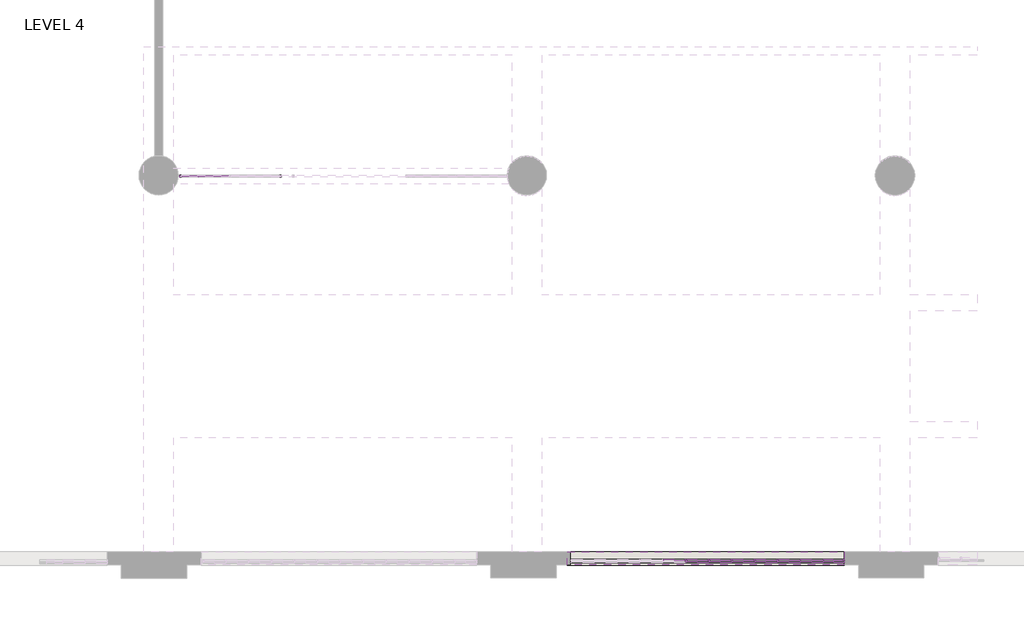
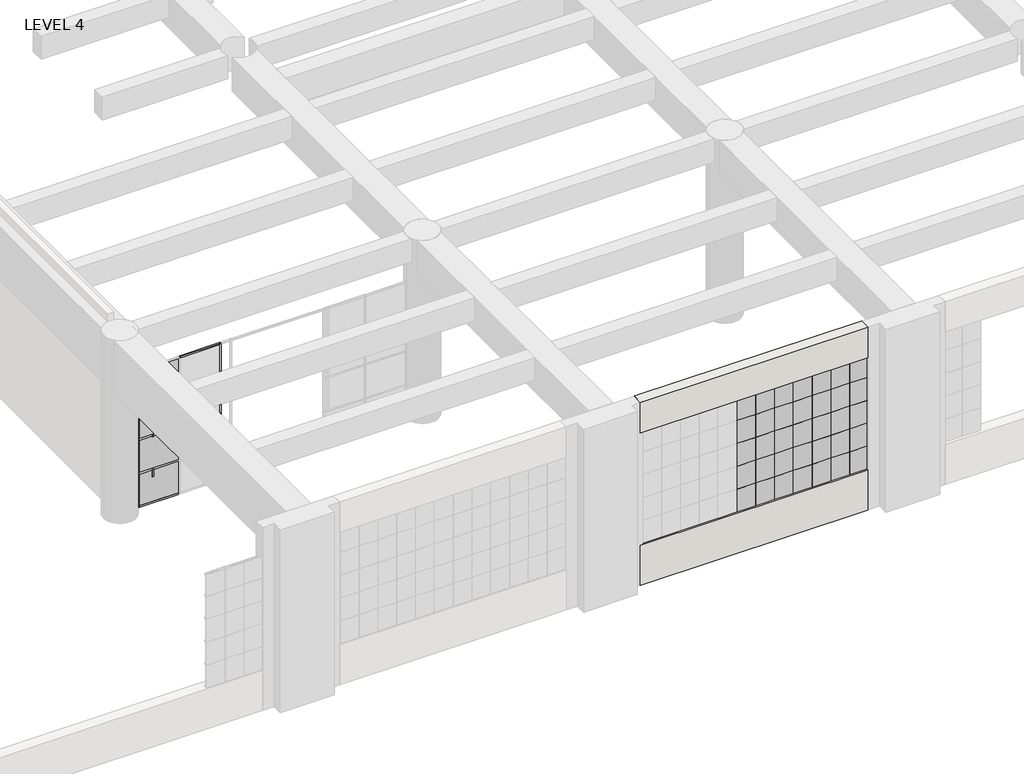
# One storey, part 4 of 26: 82 members, 39 plates, 2 walls.
"""IFC4 building model written with IfcOpenShell, lengths in millimetres."""

from ifc_helpers import new_model, si_unit, frame, origin, origin_with_axes, place, context, project, spatial, polyline, outline, extrude, transform, mapped, element, save
from components import member_038dcf1c, member_3d4b608b, member_3c10d71f, member_653bb31e, member_8f0442da, member_1fa6a766, member_6e7684cb, member_aef483ff, member_88f59781, member_92de3609, member_bade2307, member_f7ae4650, member_118f13bb, member_0a6cf826, member_2f6810a2, member_d9fec558, member_0e6c94ff, member_643a3807, member_6c57b699, member_ec43e15b, member_0f6da5c5, member_b565511f, member_2de5acac, member_f0929a5d, member_9f9ec4ec, system_panel_glazed_ab35d819, system_panel_glazed_669206e4, system_panel_glazed_418eb6cd, system_panel_glazed_3e00299e, plate_ccda104d, plate_41dfdbf4, plate_6a2117e0, plate_a1edb61d

model = new_model("IFC4")

# Units and contexts
model_context = context("Model", 3, world=origin())
ifc_project = project(units=[si_unit("LENGTHUNIT", "METRE", prefix="MILLI")], contexts=[model_context])

# Site, building, storey
site = spatial("IfcSite", under=ifc_project)
building = spatial("IfcBuilding", under=site)
storey = spatial("IfcBuildingStorey", under=building, Name="LEVEL 4", Elevation=0.0)

# Members
placement = place(None, origin())
member_shape = member_038dcf1c(model_context)
element("IfcMember", 1, ObjectType="Circular Mullion : 1 1/4\" Square", at=placement, inside=storey, context=model_context, shape_type="MappedRepresentation", body=[
    mapped(member_shape, transform((-32384.6919526, 87297.4286167, 2171.7), x_axis=(1.0, 0.0, 0.0), y_axis=(0.0, -1.0, 0.0), z_axis=(0.0, 0.0, -1.0))),
])
element("IfcMember", 2, ObjectType="Circular Mullion : 1 1/4\" Square", at=placement, inside=storey, context=model_context, shape_type="MappedRepresentation", body=[
    mapped(member_shape, transform((-32384.6919526, 87297.4286167, 1714.5), x_axis=(1.0, 0.0, 0.0), y_axis=(0.0, -1.0, 0.0), z_axis=(0.0, 0.0, -1.0))),
])
element("IfcMember", 3, ObjectType="Circular Mullion : 1 1/4\" Square", at=placement, inside=storey, context=model_context, shape_type="MappedRepresentation", body=[
    mapped(member_shape, transform((-32384.6919526, 87297.4286167, 1257.3), x_axis=(1.0, 0.0, 0.0), y_axis=(0.0, -1.0, 0.0), z_axis=(0.0, 0.0, -1.0))),
])
element("IfcMember", 4, ObjectType="Circular Mullion : 1 1/4\" Square", at=placement, inside=storey, context=model_context, shape_type="MappedRepresentation", body=[
    mapped(member_shape, transform((-32384.6919526, 87297.4286167, 800.1), x_axis=(1.0, 0.0, 0.0), y_axis=(0.0, -1.0, 0.0), z_axis=(0.0, 0.0, -1.0))),
])
member_2_shape = member_3d4b608b(model_context)
element("IfcMember", 5, ObjectType="Circular Mullion : 1 1/4\" Square", at=placement, inside=storey, context=model_context, shape_type="MappedRepresentation", body=[
    mapped(member_2_shape, transform((-33425.620947, 87297.4286167, 2171.7), x_axis=(1.0, 0.0, 0.0), y_axis=(0.0, -1.0, 0.0), z_axis=(0.0, 0.0, -1.0))),
])
element("IfcMember", 6, ObjectType="Circular Mullion : 1 1/4\" Square", at=placement, inside=storey, context=model_context, shape_type="MappedRepresentation", body=[
    mapped(member_2_shape, transform((-33425.620947, 87297.4286167, 1714.5), x_axis=(1.0, 0.0, 0.0), y_axis=(0.0, -1.0, 0.0), z_axis=(0.0, 0.0, -1.0))),
])
element("IfcMember", 7, ObjectType="Circular Mullion : 1 1/4\" Square", at=placement, inside=storey, context=model_context, shape_type="MappedRepresentation", body=[
    mapped(member_2_shape, transform((-33425.620947, 87297.4286167, 1257.3), x_axis=(1.0, 0.0, 0.0), y_axis=(0.0, -1.0, 0.0), z_axis=(0.0, 0.0, -1.0))),
])
element("IfcMember", 8, ObjectType="Circular Mullion : 1 1/4\" Square", at=placement, inside=storey, context=model_context, shape_type="MappedRepresentation", body=[
    mapped(member_2_shape, transform((-33781.220947, 87297.4286167, 2171.7), x_axis=(1.0, 0.0, 0.0), y_axis=(0.0, -1.0, 0.0), z_axis=(0.0, 0.0, -1.0))),
])
element("IfcMember", 9, ObjectType="Circular Mullion : 1 1/4\" Square", at=placement, inside=storey, context=model_context, shape_type="MappedRepresentation", body=[
    mapped(member_2_shape, transform((-33781.220947, 87297.4286167, 1714.5), x_axis=(1.0, 0.0, 0.0), y_axis=(0.0, -1.0, 0.0), z_axis=(0.0, 0.0, -1.0))),
])
element("IfcMember", 10, ObjectType="Circular Mullion : 1 1/4\" Square", at=placement, inside=storey, context=model_context, shape_type="MappedRepresentation", body=[
    mapped(member_2_shape, transform((-33781.220947, 87297.4286167, 1257.3), x_axis=(1.0, 0.0, 0.0), y_axis=(0.0, -1.0, 0.0), z_axis=(0.0, 0.0, -1.0))),
])
element("IfcMember", 11, ObjectType="Circular Mullion : 1 1/4\" Square", at=placement, inside=storey, context=model_context, shape_type="MappedRepresentation", body=[
    mapped(member_2_shape, transform((-34136.820947, 87297.4286167, 2171.7), x_axis=(1.0, 0.0, 0.0), y_axis=(0.0, -1.0, 0.0), z_axis=(0.0, 0.0, -1.0))),
])
element("IfcMember", 12, ObjectType="Circular Mullion : 1 1/4\" Square", at=placement, inside=storey, context=model_context, shape_type="MappedRepresentation", body=[
    mapped(member_2_shape, transform((-34136.820947, 87297.4286167, 1714.5), x_axis=(1.0, 0.0, 0.0), y_axis=(0.0, -1.0, 0.0), z_axis=(0.0, 0.0, -1.0))),
])
element("IfcMember", 13, ObjectType="Circular Mullion : 1 1/4\" Square", at=placement, inside=storey, context=model_context, shape_type="MappedRepresentation", body=[
    mapped(member_2_shape, transform((-34136.820947, 87297.4286167, 1257.3), x_axis=(1.0, 0.0, 0.0), y_axis=(0.0, -1.0, 0.0), z_axis=(0.0, 0.0, -1.0))),
])
element("IfcMember", 14, ObjectType="Circular Mullion : 1 1/4\" Square", at=placement, inside=storey, context=model_context, shape_type="MappedRepresentation", body=[
    mapped(member_2_shape, transform((-34492.420947, 87297.4286167, 2171.7), x_axis=(1.0, 0.0, 0.0), y_axis=(0.0, -1.0, 0.0), z_axis=(0.0, 0.0, -1.0))),
])
element("IfcMember", 15, ObjectType="Circular Mullion : 1 1/4\" Square", at=placement, inside=storey, context=model_context, shape_type="MappedRepresentation", body=[
    mapped(member_2_shape, transform((-34492.420947, 87297.4286167, 1714.5), x_axis=(1.0, 0.0, 0.0), y_axis=(0.0, -1.0, 0.0), z_axis=(0.0, 0.0, -1.0))),
])
element("IfcMember", 16, ObjectType="Circular Mullion : 1 1/4\" Square", at=placement, inside=storey, context=model_context, shape_type="MappedRepresentation", body=[
    mapped(member_2_shape, transform((-34492.420947, 87297.4286167, 1257.3), x_axis=(1.0, 0.0, 0.0), y_axis=(0.0, -1.0, 0.0), z_axis=(0.0, 0.0, -1.0))),
])
element("IfcMember", 17, ObjectType="Circular Mullion : 1 1/4\" Square", at=placement, inside=storey, context=model_context, shape_type="MappedRepresentation", body=[
    mapped(member_2_shape, transform((-34848.020947, 87297.4286167, 2171.7), x_axis=(1.0, 0.0, 0.0), y_axis=(0.0, -1.0, 0.0), z_axis=(0.0, 0.0, -1.0))),
])
element("IfcMember", 18, ObjectType="Circular Mullion : 1 1/4\" Square", at=placement, inside=storey, context=model_context, shape_type="MappedRepresentation", body=[
    mapped(member_2_shape, transform((-34848.020947, 87297.4286167, 1714.5), x_axis=(1.0, 0.0, 0.0), y_axis=(0.0, -1.0, 0.0), z_axis=(0.0, 0.0, -1.0))),
])
element("IfcMember", 19, ObjectType="Circular Mullion : 1 1/4\" Square", at=placement, inside=storey, context=model_context, shape_type="MappedRepresentation", body=[
    mapped(member_2_shape, transform((-34848.020947, 87297.4286167, 1257.3), x_axis=(1.0, 0.0, 0.0), y_axis=(0.0, -1.0, 0.0), z_axis=(0.0, 0.0, -1.0))),
])
element("IfcMember", 20, ObjectType="Circular Mullion : 1 1/4\" Square", at=placement, inside=storey, context=model_context, shape_type="MappedRepresentation", body=[
    mapped(member_2_shape, transform((-33425.620947, 87297.4286167, 800.1), x_axis=(1.0, 0.0, 0.0), y_axis=(0.0, -1.0, 0.0), z_axis=(0.0, 0.0, -1.0))),
])
element("IfcMember", 21, ObjectType="Circular Mullion : 1 1/4\" Square", at=placement, inside=storey, context=model_context, shape_type="MappedRepresentation", body=[
    mapped(member_2_shape, transform((-33781.220947, 87297.4286167, 800.1), x_axis=(1.0, 0.0, 0.0), y_axis=(0.0, -1.0, 0.0), z_axis=(0.0, 0.0, -1.0))),
])
element("IfcMember", 22, ObjectType="Circular Mullion : 1 1/4\" Square", at=placement, inside=storey, context=model_context, shape_type="MappedRepresentation", body=[
    mapped(member_2_shape, transform((-34136.820947, 87297.4286167, 800.1), x_axis=(1.0, 0.0, 0.0), y_axis=(0.0, -1.0, 0.0), z_axis=(0.0, 0.0, -1.0))),
])
element("IfcMember", 23, ObjectType="Circular Mullion : 1 1/4\" Square", at=placement, inside=storey, context=model_context, shape_type="MappedRepresentation", body=[
    mapped(member_2_shape, transform((-34492.420947, 87297.4286167, 800.1), x_axis=(1.0, 0.0, 0.0), y_axis=(0.0, -1.0, 0.0), z_axis=(0.0, 0.0, -1.0))),
])
element("IfcMember", 24, ObjectType="Circular Mullion : 1 1/4\" Square", at=placement, inside=storey, context=model_context, shape_type="MappedRepresentation", body=[
    mapped(member_2_shape, transform((-34848.020947, 87297.4286167, 800.1), x_axis=(1.0, 0.0, 0.0), y_axis=(0.0, -1.0, 0.0), z_axis=(0.0, 0.0, -1.0))),
])
member_3_shape = member_3c10d71f(model_context)
element("IfcMember", 25, ObjectType="Circular Mullion : 1 1/4\" Square", at=placement, inside=storey, context=model_context, shape_type="MappedRepresentation", body=[
    mapped(member_3_shape, transform((-34835.320947, 87297.4286167, 800.1), x_axis=(0.0, 0.0, -1.0), y_axis=(0.0, -1.0, 0.0), z_axis=(-1.0, 0.0, 0.0))),
])
element("IfcMember", 26, ObjectType="Circular Mullion : 1 1/4\" Square", at=placement, inside=storey, context=model_context, shape_type="MappedRepresentation", body=[
    mapped(member_3_shape, transform((-34479.720947, 87297.4286167, 800.1), x_axis=(0.0, 0.0, -1.0), y_axis=(0.0, -1.0, 0.0), z_axis=(-1.0, 0.0, 0.0))),
])
element("IfcMember", 27, ObjectType="Circular Mullion : 1 1/4\" Square", at=placement, inside=storey, context=model_context, shape_type="MappedRepresentation", body=[
    mapped(member_3_shape, transform((-34124.120947, 87297.4286167, 800.1), x_axis=(0.0, 0.0, -1.0), y_axis=(0.0, -1.0, 0.0), z_axis=(-1.0, 0.0, 0.0))),
])
element("IfcMember", 28, ObjectType="Circular Mullion : 1 1/4\" Square", at=placement, inside=storey, context=model_context, shape_type="MappedRepresentation", body=[
    mapped(member_3_shape, transform((-33768.520947, 87297.4286167, 800.1), x_axis=(0.0, 0.0, -1.0), y_axis=(0.0, -1.0, 0.0), z_axis=(-1.0, 0.0, 0.0))),
])
member_4_shape = member_653bb31e(model_context)
element("IfcMember", 29, ObjectType="Circular Mullion : 1 1/4\" Square", at=placement, inside=storey, context=model_context, shape_type="MappedRepresentation", body=[
    mapped(member_4_shape, transform((-34860.720947, 87297.4286167, 2628.9), x_axis=(0.0, 0.0, 1.0), y_axis=(0.0, -1.0, 0.0), z_axis=(1.0, 0.0, 0.0))),
])
element("IfcMember", 30, ObjectType="Circular Mullion : 1 1/4\" Square", at=placement, inside=storey, context=model_context, shape_type="MappedRepresentation", body=[
    mapped(member_4_shape, transform((-34505.120947, 87297.4286167, 2628.9), x_axis=(0.0, 0.0, 1.0), y_axis=(0.0, -1.0, 0.0), z_axis=(1.0, 0.0, 0.0))),
])
element("IfcMember", 31, ObjectType="Circular Mullion : 1 1/4\" Square", at=placement, inside=storey, context=model_context, shape_type="MappedRepresentation", body=[
    mapped(member_4_shape, transform((-34149.520947, 87297.4286167, 2628.9), x_axis=(0.0, 0.0, 1.0), y_axis=(0.0, -1.0, 0.0), z_axis=(1.0, 0.0, 0.0))),
])
element("IfcMember", 32, ObjectType="Circular Mullion : 1 1/4\" Square", at=placement, inside=storey, context=model_context, shape_type="MappedRepresentation", body=[
    mapped(member_4_shape, transform((-33793.920947, 87297.4286167, 2628.9), x_axis=(0.0, 0.0, 1.0), y_axis=(0.0, -1.0, 0.0), z_axis=(1.0, 0.0, 0.0))),
])
element("IfcMember", 33, ObjectType="Circular Mullion : 1 1/4\" Square", at=placement, inside=storey, context=model_context, shape_type="MappedRepresentation", body=[
    mapped(member_4_shape, transform((-33438.320947, 87297.4286167, 2628.9), x_axis=(0.0, 0.0, 1.0), y_axis=(0.0, -1.0, 0.0), z_axis=(1.0, 0.0, 0.0))),
])
element("IfcMember", 34, ObjectType="Circular Mullion : 1 1/4\" Square", at=placement, inside=storey, context=model_context, shape_type="MappedRepresentation", body=[
    mapped(member_4_shape, transform((-34860.720947, 87297.4286167, 2171.7), x_axis=(0.0, 0.0, 1.0), y_axis=(0.0, -1.0, 0.0), z_axis=(1.0, 0.0, 0.0))),
])
element("IfcMember", 35, ObjectType="Circular Mullion : 1 1/4\" Square", at=placement, inside=storey, context=model_context, shape_type="MappedRepresentation", body=[
    mapped(member_4_shape, transform((-34505.120947, 87297.4286167, 2171.7), x_axis=(0.0, 0.0, 1.0), y_axis=(0.0, -1.0, 0.0), z_axis=(1.0, 0.0, 0.0))),
])
element("IfcMember", 36, ObjectType="Circular Mullion : 1 1/4\" Square", at=placement, inside=storey, context=model_context, shape_type="MappedRepresentation", body=[
    mapped(member_4_shape, transform((-34149.520947, 87297.4286167, 2171.7), x_axis=(0.0, 0.0, 1.0), y_axis=(0.0, -1.0, 0.0), z_axis=(1.0, 0.0, 0.0))),
])
element("IfcMember", 37, ObjectType="Circular Mullion : 1 1/4\" Square", at=placement, inside=storey, context=model_context, shape_type="MappedRepresentation", body=[
    mapped(member_4_shape, transform((-33793.920947, 87297.4286167, 2171.7), x_axis=(0.0, 0.0, 1.0), y_axis=(0.0, -1.0, 0.0), z_axis=(1.0, 0.0, 0.0))),
])
element("IfcMember", 38, ObjectType="Circular Mullion : 1 1/4\" Square", at=placement, inside=storey, context=model_context, shape_type="MappedRepresentation", body=[
    mapped(member_4_shape, transform((-33438.320947, 87297.4286167, 2171.7), x_axis=(0.0, 0.0, 1.0), y_axis=(0.0, -1.0, 0.0), z_axis=(1.0, 0.0, 0.0))),
])
element("IfcMember", 39, ObjectType="Circular Mullion : 1 1/4\" Square", at=placement, inside=storey, context=model_context, shape_type="MappedRepresentation", body=[
    mapped(member_4_shape, transform((-34860.720947, 87297.4286167, 1714.5), x_axis=(0.0, 0.0, 1.0), y_axis=(0.0, -1.0, 0.0), z_axis=(1.0, 0.0, 0.0))),
])
element("IfcMember", 40, ObjectType="Circular Mullion : 1 1/4\" Square", at=placement, inside=storey, context=model_context, shape_type="MappedRepresentation", body=[
    mapped(member_4_shape, transform((-34505.120947, 87297.4286167, 1714.5), x_axis=(0.0, 0.0, 1.0), y_axis=(0.0, -1.0, 0.0), z_axis=(1.0, 0.0, 0.0))),
])
element("IfcMember", 41, ObjectType="Circular Mullion : 1 1/4\" Square", at=placement, inside=storey, context=model_context, shape_type="MappedRepresentation", body=[
    mapped(member_4_shape, transform((-34149.520947, 87297.4286167, 1714.5), x_axis=(0.0, 0.0, 1.0), y_axis=(0.0, -1.0, 0.0), z_axis=(1.0, 0.0, 0.0))),
])
element("IfcMember", 42, ObjectType="Circular Mullion : 1 1/4\" Square", at=placement, inside=storey, context=model_context, shape_type="MappedRepresentation", body=[
    mapped(member_4_shape, transform((-33793.920947, 87297.4286167, 1714.5), x_axis=(0.0, 0.0, 1.0), y_axis=(0.0, -1.0, 0.0), z_axis=(1.0, 0.0, 0.0))),
])
element("IfcMember", 43, ObjectType="Circular Mullion : 1 1/4\" Square", at=placement, inside=storey, context=model_context, shape_type="MappedRepresentation", body=[
    mapped(member_4_shape, transform((-33438.320947, 87297.4286167, 1714.5), x_axis=(0.0, 0.0, 1.0), y_axis=(0.0, -1.0, 0.0), z_axis=(1.0, 0.0, 0.0))),
])
element("IfcMember", 44, ObjectType="Circular Mullion : 1 1/4\" Square", at=placement, inside=storey, context=model_context, shape_type="MappedRepresentation", body=[
    mapped(member_4_shape, transform((-34860.720947, 87297.4286167, 1257.3), x_axis=(0.0, 0.0, 1.0), y_axis=(0.0, -1.0, 0.0), z_axis=(1.0, 0.0, 0.0))),
])
element("IfcMember", 45, ObjectType="Circular Mullion : 1 1/4\" Square", at=placement, inside=storey, context=model_context, shape_type="MappedRepresentation", body=[
    mapped(member_4_shape, transform((-34505.120947, 87297.4286167, 1257.3), x_axis=(0.0, 0.0, 1.0), y_axis=(0.0, -1.0, 0.0), z_axis=(1.0, 0.0, 0.0))),
])
element("IfcMember", 46, ObjectType="Circular Mullion : 1 1/4\" Square", at=placement, inside=storey, context=model_context, shape_type="MappedRepresentation", body=[
    mapped(member_4_shape, transform((-34149.520947, 87297.4286167, 1257.3), x_axis=(0.0, 0.0, 1.0), y_axis=(0.0, -1.0, 0.0), z_axis=(1.0, 0.0, 0.0))),
])
element("IfcMember", 47, ObjectType="Circular Mullion : 1 1/4\" Square", at=placement, inside=storey, context=model_context, shape_type="MappedRepresentation", body=[
    mapped(member_4_shape, transform((-33793.920947, 87297.4286167, 1257.3), x_axis=(0.0, 0.0, 1.0), y_axis=(0.0, -1.0, 0.0), z_axis=(1.0, 0.0, 0.0))),
])
element("IfcMember", 48, ObjectType="Circular Mullion : 1 1/4\" Square", at=placement, inside=storey, context=model_context, shape_type="MappedRepresentation", body=[
    mapped(member_4_shape, transform((-33438.320947, 87297.4286167, 1257.3), x_axis=(0.0, 0.0, 1.0), y_axis=(0.0, -1.0, 0.0), z_axis=(1.0, 0.0, 0.0))),
])
member_5_shape = member_8f0442da(model_context)
element("IfcMember", 49, ObjectType="Circular Mullion : 1 1/4\" Square", at=placement, inside=storey, context=model_context, shape_type="MappedRepresentation", body=[
    mapped(member_5_shape, transform((-42431.9623759, 93262.0914396, 1354.5108872), x_axis=(-1.0, 0.0, 0.0), y_axis=(0.0, -1.0, 0.0), z_axis=(0.0, 0.0, 1.0))),
])
member_6_shape = member_1fa6a766(model_context)
element("IfcMember", 50, ObjectType="Circular Mullion : 1 1/4\" Square", at=placement, inside=storey, context=model_context, shape_type="MappedRepresentation", body=[
    mapped(member_6_shape, transform((-42431.9623759, 93262.0914396, 2041.3401593), x_axis=(-1.0, 0.0, 0.0), y_axis=(0.0, -1.0, 0.0), z_axis=(0.0, 0.0, 1.0))),
])
member_7_shape = member_6e7684cb(model_context)
element("IfcMember", 51, ObjectType="Circular Mullion : 1 1/4\" Square", at=placement, inside=storey, context=model_context, shape_type="MappedRepresentation", body=[
    mapped(member_7_shape, transform((-42431.9623759, 93262.0914396, 676.4411435), x_axis=(-1.0, 0.0, 0.0), y_axis=(0.0, -1.0, 0.0), z_axis=(0.0, 0.0, 1.0))),
])
member_8_shape = member_aef483ff(model_context)
element("IfcMember", 52, ObjectType="Circular Mullion : 1 1/4\" Square", at=placement, inside=storey, context=model_context, shape_type="MappedRepresentation", body=[
    mapped(member_8_shape, transform((-41141.5259089, 93262.0914396, 2041.3401593), x_axis=(1.0, 0.0, 0.0), y_axis=(0.0, -1.0, 0.0), z_axis=(0.0, 0.0, -1.0))),
])
member_9_shape = member_88f59781(model_context)
element("IfcMember", 53, ObjectType="Circular Mullion : 1 1/4\" Square", at=placement, inside=storey, context=model_context, shape_type="MappedRepresentation", body=[
    mapped(member_9_shape, transform((-42706.6245306, 93262.0914396, 2743.2), x_axis=(-1.0, 0.0, 0.0), y_axis=(0.0, -1.0, 0.0), z_axis=(0.0, 0.0, 1.0))),
])
member_10_shape = member_92de3609(model_context)
element("IfcMember", 54, ObjectType="Circular Mullion : 1 1/4\" Square", at=placement, inside=storey, context=model_context, shape_type="MappedRepresentation", body=[
    mapped(member_10_shape, transform((-41141.5259089, 93262.0914396, 1354.5108872), x_axis=(1.0, 0.0, 0.0), y_axis=(0.0, -1.0, 0.0), z_axis=(0.0, 0.0, -1.0))),
])
member_11_shape = member_bade2307(model_context)
element("IfcMember", 55, ObjectType="Circular Mullion : 1 1/4\" Square", at=placement, inside=storey, context=model_context, shape_type="MappedRepresentation", body=[
    mapped(member_11_shape, transform((-42706.6245306, 93262.0914396, 2041.3401593), x_axis=(-1.0, 0.0, 0.0), y_axis=(0.0, -1.0, 0.0), z_axis=(0.0, 0.0, 1.0))),
])
member_12_shape = member_f7ae4650(model_context)
element("IfcMember", 56, ObjectType="Circular Mullion : 1 1/4\" Square", at=placement, inside=storey, context=model_context, shape_type="MappedRepresentation", body=[
    mapped(member_12_shape, transform((-41141.5259089, 93262.0914396, 0.0), x_axis=(1.0, 0.0, 0.0), y_axis=(0.0, -1.0, 0.0), z_axis=(0.0, 0.0, -1.0))),
])
member_13_shape = member_118f13bb(model_context)
element("IfcMember", 57, ObjectType="Circular Mullion : 1 1/4\" Square", at=placement, inside=storey, context=model_context, shape_type="MappedRepresentation", body=[
    mapped(member_13_shape, transform((-41141.5259089, 93262.0914396, 676.4411435), x_axis=(1.0, 0.0, 0.0), y_axis=(0.0, -1.0, 0.0), z_axis=(0.0, 0.0, -1.0))),
])
member_14_shape = member_0a6cf826(model_context)
element("IfcMember", 58, ObjectType="Circular Mullion : 1 1/4\" Square", at=placement, inside=storey, context=model_context, shape_type="MappedRepresentation", body=[
    mapped(member_14_shape, transform((-42706.6245306, 93262.0914396, 1354.5108872), x_axis=(-1.0, 0.0, 0.0), y_axis=(0.0, -1.0, 0.0), z_axis=(0.0, 0.0, 1.0))),
])
member_15_shape = member_2f6810a2(model_context)
element("IfcMember", 59, ObjectType="Circular Mullion : 1 1/4\" Square", at=placement, inside=storey, context=model_context, shape_type="MappedRepresentation", body=[
    mapped(member_15_shape, transform((-42706.6245306, 93262.0914396, 676.4411435), x_axis=(-1.0, 0.0, 0.0), y_axis=(0.0, -1.0, 0.0), z_axis=(0.0, 0.0, 1.0))),
])
member_16_shape = member_d9fec558(model_context)
element("IfcMember", 60, ObjectType="Circular Mullion : 1 1/4\" Square", at=placement, inside=storey, context=model_context, shape_type="MappedRepresentation", body=[
    mapped(member_16_shape, transform((-33425.620947, 87297.4286167, 2628.9), x_axis=(1.0, 0.0, 0.0), y_axis=(0.0, -1.0, 0.0), z_axis=(0.0, 0.0, -1.0))),
])
element("IfcMember", 61, ObjectType="Circular Mullion : 1 1/4\" Square", at=placement, inside=storey, context=model_context, shape_type="MappedRepresentation", body=[
    mapped(member_16_shape, transform((-33781.220947, 87297.4286167, 2628.9), x_axis=(1.0, 0.0, 0.0), y_axis=(0.0, -1.0, 0.0), z_axis=(0.0, 0.0, -1.0))),
])
element("IfcMember", 62, ObjectType="Circular Mullion : 1 1/4\" Square", at=placement, inside=storey, context=model_context, shape_type="MappedRepresentation", body=[
    mapped(member_16_shape, transform((-34136.820947, 87297.4286167, 2628.9), x_axis=(1.0, 0.0, 0.0), y_axis=(0.0, -1.0, 0.0), z_axis=(0.0, 0.0, -1.0))),
])
element("IfcMember", 63, ObjectType="Circular Mullion : 1 1/4\" Square", at=placement, inside=storey, context=model_context, shape_type="MappedRepresentation", body=[
    mapped(member_16_shape, transform((-34492.420947, 87297.4286167, 2628.9), x_axis=(1.0, 0.0, 0.0), y_axis=(0.0, -1.0, 0.0), z_axis=(0.0, 0.0, -1.0))),
])
element("IfcMember", 64, ObjectType="Circular Mullion : 1 1/4\" Square", at=placement, inside=storey, context=model_context, shape_type="MappedRepresentation", body=[
    mapped(member_16_shape, transform((-34848.020947, 87297.4286167, 2628.9), x_axis=(1.0, 0.0, 0.0), y_axis=(0.0, -1.0, 0.0), z_axis=(0.0, 0.0, -1.0))),
])
member_17_shape = member_0e6c94ff(model_context)
element("IfcMember", 65, ObjectType="Circular Mullion : 1 1/4\" Square", at=placement, inside=storey, context=model_context, shape_type="MappedRepresentation", body=[
    mapped(member_17_shape, transform((-32384.6919526, 87297.4286167, 2628.9), x_axis=(1.0, 0.0, 0.0), y_axis=(0.0, -1.0, 0.0), z_axis=(0.0, 0.0, -1.0))),
])
member_18_shape = member_643a3807(model_context)
element("IfcMember", 66, ObjectType="Circular Mullion : 1 1/4\" Square", at=placement, inside=storey, context=model_context, shape_type="MappedRepresentation", body=[
    mapped(member_18_shape, transform((-32714.420947, 87297.4286167, 2628.9), x_axis=(0.0, 0.0, 1.0), y_axis=(0.0, -1.0, 0.0), z_axis=(1.0, 0.0, 0.0))),
])
element("IfcMember", 67, ObjectType="Circular Mullion : 1 1/4\" Square", at=placement, inside=storey, context=model_context, shape_type="MappedRepresentation", body=[
    mapped(member_18_shape, transform((-32714.420947, 87297.4286167, 2171.7), x_axis=(0.0, 0.0, 1.0), y_axis=(0.0, -1.0, 0.0), z_axis=(1.0, 0.0, 0.0))),
])
element("IfcMember", 68, ObjectType="Circular Mullion : 1 1/4\" Square", at=placement, inside=storey, context=model_context, shape_type="MappedRepresentation", body=[
    mapped(member_18_shape, transform((-32714.420947, 87297.4286167, 1714.5), x_axis=(0.0, 0.0, 1.0), y_axis=(0.0, -1.0, 0.0), z_axis=(1.0, 0.0, 0.0))),
])
element("IfcMember", 69, ObjectType="Circular Mullion : 1 1/4\" Square", at=placement, inside=storey, context=model_context, shape_type="MappedRepresentation", body=[
    mapped(member_18_shape, transform((-32714.420947, 87297.4286167, 1257.3), x_axis=(0.0, 0.0, 1.0), y_axis=(0.0, -1.0, 0.0), z_axis=(1.0, 0.0, 0.0))),
])
member_19_shape = member_6c57b699(model_context)
element("IfcMember", 70, ObjectType="Circular Mullion : 1 1/4\" Square", at=placement, inside=storey, context=model_context, shape_type="MappedRepresentation", body=[
    mapped(member_19_shape, transform((-33070.020947, 87297.4286167, 2628.9), x_axis=(0.0, 0.0, 1.0), y_axis=(0.0, -1.0, 0.0), z_axis=(1.0, 0.0, 0.0))),
])
element("IfcMember", 71, ObjectType="Circular Mullion : 1 1/4\" Square", at=placement, inside=storey, context=model_context, shape_type="MappedRepresentation", body=[
    mapped(member_19_shape, transform((-33070.020947, 87297.4286167, 2171.7), x_axis=(0.0, 0.0, 1.0), y_axis=(0.0, -1.0, 0.0), z_axis=(1.0, 0.0, 0.0))),
])
element("IfcMember", 72, ObjectType="Circular Mullion : 1 1/4\" Square", at=placement, inside=storey, context=model_context, shape_type="MappedRepresentation", body=[
    mapped(member_19_shape, transform((-33070.020947, 87297.4286167, 1714.5), x_axis=(0.0, 0.0, 1.0), y_axis=(0.0, -1.0, 0.0), z_axis=(1.0, 0.0, 0.0))),
])
element("IfcMember", 73, ObjectType="Circular Mullion : 1 1/4\" Square", at=placement, inside=storey, context=model_context, shape_type="MappedRepresentation", body=[
    mapped(member_19_shape, transform((-33070.020947, 87297.4286167, 1257.3), x_axis=(0.0, 0.0, 1.0), y_axis=(0.0, -1.0, 0.0), z_axis=(1.0, 0.0, 0.0))),
])
member_20_shape = member_ec43e15b(model_context)
element("IfcMember", 74, ObjectType="Circular Mullion : 1 1/4\" Square", at=placement, inside=storey, context=model_context, shape_type="MappedRepresentation", body=[
    mapped(member_20_shape, transform((-33070.020947, 87297.4286167, 800.1), x_axis=(0.0, 0.0, -1.0), y_axis=(0.0, -1.0, 0.0), z_axis=(-1.0, 0.0, 0.0))),
])
member_21_shape = member_0f6da5c5(model_context)
element("IfcMember", 75, ObjectType="Circular Mullion : 1 1/4\" Square", at=placement, inside=storey, context=model_context, shape_type="MappedRepresentation", body=[
    mapped(member_21_shape, transform((-33412.920947, 87297.4286167, 800.1), x_axis=(0.0, 0.0, -1.0), y_axis=(0.0, -1.0, 0.0), z_axis=(-1.0, 0.0, 0.0))),
])
member_22_shape = member_b565511f(model_context)
element("IfcMember", 76, ObjectType="Circular Mullion : 1 1/4\" Square", at=placement, inside=storey, context=model_context, shape_type="MappedRepresentation", body=[
    mapped(member_22_shape, transform((-32714.420947, 87297.4286167, 800.1), x_axis=(0.0, 0.0, -1.0), y_axis=(0.0, -1.0, 0.0), z_axis=(-1.0, 0.0, 0.0))),
])
member_23_shape = member_2de5acac(model_context)
element("IfcMember", 77, ObjectType="Circular Mullion : 1 1/4\" Square", at=placement, inside=storey, context=model_context, shape_type="MappedRepresentation", body=[
    mapped(member_23_shape, transform((-32410.0919526, 87297.4286167, 2628.9), x_axis=(0.0, 0.0, 1.0), y_axis=(0.0, -1.0, 0.0), z_axis=(1.0, 0.0, 0.0))),
])
element("IfcMember", 78, ObjectType="Circular Mullion : 1 1/4\" Square", at=placement, inside=storey, context=model_context, shape_type="MappedRepresentation", body=[
    mapped(member_23_shape, transform((-32410.0919526, 87297.4286167, 2171.7), x_axis=(0.0, 0.0, 1.0), y_axis=(0.0, -1.0, 0.0), z_axis=(1.0, 0.0, 0.0))),
])
element("IfcMember", 79, ObjectType="Circular Mullion : 1 1/4\" Square", at=placement, inside=storey, context=model_context, shape_type="MappedRepresentation", body=[
    mapped(member_23_shape, transform((-32410.0919526, 87297.4286167, 1714.5), x_axis=(0.0, 0.0, 1.0), y_axis=(0.0, -1.0, 0.0), z_axis=(1.0, 0.0, 0.0))),
])
element("IfcMember", 80, ObjectType="Circular Mullion : 1 1/4\" Square", at=placement, inside=storey, context=model_context, shape_type="MappedRepresentation", body=[
    mapped(member_23_shape, transform((-32410.0919526, 87297.4286167, 1257.3), x_axis=(0.0, 0.0, 1.0), y_axis=(0.0, -1.0, 0.0), z_axis=(1.0, 0.0, 0.0))),
])
member_24_shape = member_f0929a5d(model_context)
element("IfcMember", 81, ObjectType="Circular Mullion : 1 1/4\" Square", at=placement, inside=storey, context=model_context, shape_type="MappedRepresentation", body=[
    mapped(member_24_shape, transform((-41154.2259089, 93262.0914396, 2743.2), x_axis=(0.0, 0.0, 1.0), y_axis=(0.0, -1.0, 0.0), z_axis=(1.0, 0.0, 0.0))),
])
member_25_shape = member_9f9ec4ec(model_context)
element("IfcMember", 82, ObjectType="Circular Mullion : 1 1/4\" Square", at=placement, inside=storey, context=model_context, shape_type="MappedRepresentation", body=[
    mapped(member_25_shape, transform((-42681.2245306, 93262.0914396, 0.0), x_axis=(0.0, 0.0, -1.0), y_axis=(0.0, -1.0, 0.0), z_axis=(-1.0, 0.0, 0.0))),
])

# Plates
system_panel_glazed_shape = system_panel_glazed_ab35d819(model_context)
element("IfcPlate", 83, ObjectType="System Panel : Glazed", at=placement, inside=storey, context=model_context, shape_type="MappedRepresentation", body=[
    mapped(system_panel_glazed_shape, transform((-32892.220947, 87297.4286167, 800.1), x_axis=(1.0, 0.0, 0.0), y_axis=(0.0, 1.0, 0.0), z_axis=(0.0, 0.0, 1.0))),
])
element("IfcPlate", 84, ObjectType="System Panel : Glazed", at=placement, inside=storey, context=model_context, shape_type="MappedRepresentation", body=[
    mapped(system_panel_glazed_shape, transform((-33247.820947, 87297.4286167, 800.1), x_axis=(1.0, 0.0, 0.0), y_axis=(0.0, 1.0, 0.0), z_axis=(0.0, 0.0, 1.0))),
])
element("IfcPlate", 85, ObjectType="System Panel : Glazed", at=placement, inside=storey, context=model_context, shape_type="MappedRepresentation", body=[
    mapped(system_panel_glazed_shape, transform((-33603.420947, 87297.4286167, 800.1), x_axis=(1.0, 0.0, 0.0), y_axis=(0.0, 1.0, 0.0), z_axis=(0.0, 0.0, 1.0))),
])
element("IfcPlate", 86, ObjectType="System Panel : Glazed", at=placement, inside=storey, context=model_context, shape_type="MappedRepresentation", body=[
    mapped(system_panel_glazed_shape, transform((-33959.020947, 87297.4286167, 800.1), x_axis=(1.0, 0.0, 0.0), y_axis=(0.0, 1.0, 0.0), z_axis=(0.0, 0.0, 1.0))),
])
element("IfcPlate", 87, ObjectType="System Panel : Glazed", at=placement, inside=storey, context=model_context, shape_type="MappedRepresentation", body=[
    mapped(system_panel_glazed_shape, transform((-34314.620947, 87297.4286167, 800.1), x_axis=(1.0, 0.0, 0.0), y_axis=(0.0, 1.0, 0.0), z_axis=(0.0, 0.0, 1.0))),
])
element("IfcPlate", 88, ObjectType="System Panel : Glazed", at=placement, inside=storey, context=model_context, shape_type="MappedRepresentation", body=[
    mapped(system_panel_glazed_shape, transform((-34670.220947, 87297.4286167, 800.1), x_axis=(1.0, 0.0, 0.0), y_axis=(0.0, 1.0, 0.0), z_axis=(0.0, 0.0, 1.0))),
])
element("IfcPlate", 89, ObjectType="System Panel : Glazed", at=placement, inside=storey, context=model_context, shape_type="MappedRepresentation", body=[
    mapped(system_panel_glazed_shape, transform((-33247.820947, 87297.4286167, 1257.3), x_axis=(1.0, 0.0, 0.0), y_axis=(0.0, 1.0, 0.0), z_axis=(0.0, 0.0, 1.0))),
])
element("IfcPlate", 90, ObjectType="System Panel : Glazed", at=placement, inside=storey, context=model_context, shape_type="MappedRepresentation", body=[
    mapped(system_panel_glazed_shape, transform((-33603.420947, 87297.4286167, 1257.3), x_axis=(1.0, 0.0, 0.0), y_axis=(0.0, 1.0, 0.0), z_axis=(0.0, 0.0, 1.0))),
])
element("IfcPlate", 91, ObjectType="System Panel : Glazed", at=placement, inside=storey, context=model_context, shape_type="MappedRepresentation", body=[
    mapped(system_panel_glazed_shape, transform((-33959.020947, 87297.4286167, 1257.3), x_axis=(1.0, 0.0, 0.0), y_axis=(0.0, 1.0, 0.0), z_axis=(0.0, 0.0, 1.0))),
])
element("IfcPlate", 92, ObjectType="System Panel : Glazed", at=placement, inside=storey, context=model_context, shape_type="MappedRepresentation", body=[
    mapped(system_panel_glazed_shape, transform((-34314.620947, 87297.4286167, 1257.3), x_axis=(1.0, 0.0, 0.0), y_axis=(0.0, 1.0, 0.0), z_axis=(0.0, 0.0, 1.0))),
])
element("IfcPlate", 93, ObjectType="System Panel : Glazed", at=placement, inside=storey, context=model_context, shape_type="MappedRepresentation", body=[
    mapped(system_panel_glazed_shape, transform((-34670.220947, 87297.4286167, 1257.3), x_axis=(1.0, 0.0, 0.0), y_axis=(0.0, 1.0, 0.0), z_axis=(0.0, 0.0, 1.0))),
])
element("IfcPlate", 94, ObjectType="System Panel : Glazed", at=placement, inside=storey, context=model_context, shape_type="MappedRepresentation", body=[
    mapped(system_panel_glazed_shape, transform((-32892.220947, 87297.4286167, 1257.3), x_axis=(1.0, 0.0, 0.0), y_axis=(0.0, 1.0, 0.0), z_axis=(0.0, 0.0, 1.0))),
])
element("IfcPlate", 95, ObjectType="System Panel : Glazed", at=placement, inside=storey, context=model_context, shape_type="MappedRepresentation", body=[
    mapped(system_panel_glazed_shape, transform((-33247.820947, 87297.4286167, 1714.5), x_axis=(1.0, 0.0, 0.0), y_axis=(0.0, 1.0, 0.0), z_axis=(0.0, 0.0, 1.0))),
])
element("IfcPlate", 96, ObjectType="System Panel : Glazed", at=placement, inside=storey, context=model_context, shape_type="MappedRepresentation", body=[
    mapped(system_panel_glazed_shape, transform((-33603.420947, 87297.4286167, 1714.5), x_axis=(1.0, 0.0, 0.0), y_axis=(0.0, 1.0, 0.0), z_axis=(0.0, 0.0, 1.0))),
])
element("IfcPlate", 97, ObjectType="System Panel : Glazed", at=placement, inside=storey, context=model_context, shape_type="MappedRepresentation", body=[
    mapped(system_panel_glazed_shape, transform((-33959.020947, 87297.4286167, 1714.5), x_axis=(1.0, 0.0, 0.0), y_axis=(0.0, 1.0, 0.0), z_axis=(0.0, 0.0, 1.0))),
])
element("IfcPlate", 98, ObjectType="System Panel : Glazed", at=placement, inside=storey, context=model_context, shape_type="MappedRepresentation", body=[
    mapped(system_panel_glazed_shape, transform((-34314.620947, 87297.4286167, 1714.5), x_axis=(1.0, 0.0, 0.0), y_axis=(0.0, 1.0, 0.0), z_axis=(0.0, 0.0, 1.0))),
])
element("IfcPlate", 99, ObjectType="System Panel : Glazed", at=placement, inside=storey, context=model_context, shape_type="MappedRepresentation", body=[
    mapped(system_panel_glazed_shape, transform((-34670.220947, 87297.4286167, 1714.5), x_axis=(1.0, 0.0, 0.0), y_axis=(0.0, 1.0, 0.0), z_axis=(0.0, 0.0, 1.0))),
])
element("IfcPlate", 100, ObjectType="System Panel : Glazed", at=placement, inside=storey, context=model_context, shape_type="MappedRepresentation", body=[
    mapped(system_panel_glazed_shape, transform((-32892.220947, 87297.4286167, 1714.5), x_axis=(1.0, 0.0, 0.0), y_axis=(0.0, 1.0, 0.0), z_axis=(0.0, 0.0, 1.0))),
])
element("IfcPlate", 101, ObjectType="System Panel : Glazed", at=placement, inside=storey, context=model_context, shape_type="MappedRepresentation", body=[
    mapped(system_panel_glazed_shape, transform((-33247.820947, 87297.4286167, 2171.7), x_axis=(1.0, 0.0, 0.0), y_axis=(0.0, 1.0, 0.0), z_axis=(0.0, 0.0, 1.0))),
])
element("IfcPlate", 102, ObjectType="System Panel : Glazed", at=placement, inside=storey, context=model_context, shape_type="MappedRepresentation", body=[
    mapped(system_panel_glazed_shape, transform((-33603.420947, 87297.4286167, 2171.7), x_axis=(1.0, 0.0, 0.0), y_axis=(0.0, 1.0, 0.0), z_axis=(0.0, 0.0, 1.0))),
])
element("IfcPlate", 103, ObjectType="System Panel : Glazed", at=placement, inside=storey, context=model_context, shape_type="MappedRepresentation", body=[
    mapped(system_panel_glazed_shape, transform((-33959.020947, 87297.4286167, 2171.7), x_axis=(1.0, 0.0, 0.0), y_axis=(0.0, 1.0, 0.0), z_axis=(0.0, 0.0, 1.0))),
])
element("IfcPlate", 104, ObjectType="System Panel : Glazed", at=placement, inside=storey, context=model_context, shape_type="MappedRepresentation", body=[
    mapped(system_panel_glazed_shape, transform((-34314.620947, 87297.4286167, 2171.7), x_axis=(1.0, 0.0, 0.0), y_axis=(0.0, 1.0, 0.0), z_axis=(0.0, 0.0, 1.0))),
])
element("IfcPlate", 105, ObjectType="System Panel : Glazed", at=placement, inside=storey, context=model_context, shape_type="MappedRepresentation", body=[
    mapped(system_panel_glazed_shape, transform((-34670.220947, 87297.4286167, 2171.7), x_axis=(1.0, 0.0, 0.0), y_axis=(0.0, 1.0, 0.0), z_axis=(0.0, 0.0, 1.0))),
])
element("IfcPlate", 106, ObjectType="System Panel : Glazed", at=placement, inside=storey, context=model_context, shape_type="MappedRepresentation", body=[
    mapped(system_panel_glazed_shape, transform((-32892.220947, 87297.4286167, 2171.7), x_axis=(1.0, 0.0, 0.0), y_axis=(0.0, 1.0, 0.0), z_axis=(0.0, 0.0, 1.0))),
])
system_panel_glazed_2_shape = system_panel_glazed_669206e4(model_context)
element("IfcPlate", 107, ObjectType="System Panel : Glazed", at=placement, inside=storey, context=model_context, shape_type="MappedRepresentation", body=[
    mapped(system_panel_glazed_2_shape, transform((-32549.5564498, 87297.4286167, 800.1), x_axis=(1.0, 0.0, 0.0), y_axis=(0.0, 1.0, 0.0), z_axis=(0.0, 0.0, 1.0))),
])
element("IfcPlate", 108, ObjectType="System Panel : Glazed", at=placement, inside=storey, context=model_context, shape_type="MappedRepresentation", body=[
    mapped(system_panel_glazed_2_shape, transform((-32549.5564498, 87297.4286167, 1257.3), x_axis=(1.0, 0.0, 0.0), y_axis=(0.0, 1.0, 0.0), z_axis=(0.0, 0.0, 1.0))),
])
element("IfcPlate", 109, ObjectType="System Panel : Glazed", at=placement, inside=storey, context=model_context, shape_type="MappedRepresentation", body=[
    mapped(system_panel_glazed_2_shape, transform((-32549.5564498, 87297.4286167, 1714.5), x_axis=(1.0, 0.0, 0.0), y_axis=(0.0, 1.0, 0.0), z_axis=(0.0, 0.0, 1.0))),
])
element("IfcPlate", 110, ObjectType="System Panel : Glazed", at=placement, inside=storey, context=model_context, shape_type="MappedRepresentation", body=[
    mapped(system_panel_glazed_2_shape, transform((-32549.5564498, 87297.4286167, 2171.7), x_axis=(1.0, 0.0, 0.0), y_axis=(0.0, 1.0, 0.0), z_axis=(0.0, 0.0, 1.0))),
])
system_panel_glazed_3_shape = system_panel_glazed_418eb6cd(model_context)
element("IfcPlate", 111, ObjectType="System Panel : Glazed", at=placement, inside=storey, context=model_context, shape_type="MappedRepresentation", body=[
    mapped(system_panel_glazed_3_shape, transform((-33247.820947, 87297.4286167, 2628.9), x_axis=(1.0, 0.0, 0.0), y_axis=(0.0, 1.0, 0.0), z_axis=(0.0, 0.0, 1.0))),
])
element("IfcPlate", 112, ObjectType="System Panel : Glazed", at=placement, inside=storey, context=model_context, shape_type="MappedRepresentation", body=[
    mapped(system_panel_glazed_3_shape, transform((-33603.420947, 87297.4286167, 2628.9), x_axis=(1.0, 0.0, 0.0), y_axis=(0.0, 1.0, 0.0), z_axis=(0.0, 0.0, 1.0))),
])
element("IfcPlate", 113, ObjectType="System Panel : Glazed", at=placement, inside=storey, context=model_context, shape_type="MappedRepresentation", body=[
    mapped(system_panel_glazed_3_shape, transform((-33959.020947, 87297.4286167, 2628.9), x_axis=(1.0, 0.0, 0.0), y_axis=(0.0, 1.0, 0.0), z_axis=(0.0, 0.0, 1.0))),
])
element("IfcPlate", 114, ObjectType="System Panel : Glazed", at=placement, inside=storey, context=model_context, shape_type="MappedRepresentation", body=[
    mapped(system_panel_glazed_3_shape, transform((-34314.620947, 87297.4286167, 2628.9), x_axis=(1.0, 0.0, 0.0), y_axis=(0.0, 1.0, 0.0), z_axis=(0.0, 0.0, 1.0))),
])
element("IfcPlate", 115, ObjectType="System Panel : Glazed", at=placement, inside=storey, context=model_context, shape_type="MappedRepresentation", body=[
    mapped(system_panel_glazed_3_shape, transform((-34670.220947, 87297.4286167, 2628.9), x_axis=(1.0, 0.0, 0.0), y_axis=(0.0, 1.0, 0.0), z_axis=(0.0, 0.0, 1.0))),
])
element("IfcPlate", 116, ObjectType="System Panel : Glazed", at=placement, inside=storey, context=model_context, shape_type="MappedRepresentation", body=[
    mapped(system_panel_glazed_3_shape, transform((-32892.220947, 87297.4286167, 2628.9), x_axis=(1.0, 0.0, 0.0), y_axis=(0.0, 1.0, 0.0), z_axis=(0.0, 0.0, 1.0))),
])
system_panel_glazed_4_shape = system_panel_glazed_3e00299e(model_context)
element("IfcPlate", 117, ObjectType="System Panel : Glazed", at=placement, inside=storey, context=model_context, shape_type="MappedRepresentation", body=[
    mapped(system_panel_glazed_4_shape, transform((-32549.5564498, 87297.4286167, 2628.9), x_axis=(1.0, 0.0, 0.0), y_axis=(0.0, 1.0, 0.0), z_axis=(0.0, 0.0, 1.0))),
])
plate_shape = plate_ccda104d(model_context)
element("IfcPlate", 118, ObjectType="System Panel : Interior - Glazing 1/4\" Thick", at=placement, inside=storey, context=model_context, shape_type="MappedRepresentation", body=[
    mapped(plate_shape, transform((-42306.5745306, 93262.0914396, 25.4), x_axis=(1.0, 0.0, 0.0), y_axis=(0.0, 1.0, 0.0), z_axis=(0.0, 0.0, 1.0))),
])
plate_2_shape = plate_41dfdbf4(model_context)
element("IfcPlate", 119, ObjectType="System Panel : Interior - Glazing 1/4\" Thick", at=placement, inside=storey, context=model_context, shape_type="MappedRepresentation", body=[
    mapped(plate_2_shape, transform((-42306.5745306, 93262.0914396, 1367.2108872), x_axis=(1.0, 0.0, 0.0), y_axis=(0.0, 1.0, 0.0), z_axis=(0.0, 0.0, 1.0))),
])
plate_3_shape = plate_6a2117e0(model_context)
element("IfcPlate", 120, ObjectType="System Panel : Interior - Glazing 1/4\" Thick", at=placement, inside=storey, context=model_context, shape_type="MappedRepresentation", body=[
    mapped(plate_3_shape, transform((-42306.5745306, 93262.0914396, 2054.0401593), x_axis=(1.0, 0.0, 0.0), y_axis=(0.0, 1.0, 0.0), z_axis=(0.0, 0.0, 1.0))),
])
plate_4_shape = plate_a1edb61d(model_context)
element("IfcPlate", 121, ObjectType="System Panel : Interior - Glazing 1/4\" Thick", at=placement, inside=storey, context=model_context, shape_type="MappedRepresentation", body=[
    mapped(plate_4_shape, transform((-42306.5745306, 93262.0914396, 689.1411435), x_axis=(1.0, 0.0, 0.0), y_axis=(0.0, 1.0, 0.0), z_axis=(0.0, 0.0, 1.0))),
])

# Walls
element("IfcWall", 122, ObjectType="_Generic - 8 1/4\"", at=placement, inside=storey, context=model_context, shape_type="SweptSolid", body=[
    extrude(outline(polyline([(-32386.6115274, 87218.3840237), (-36687.9334473, 87218.3840237), (-36687.9334473, 87427.9340237), (-32386.6115274, 87427.9340237), (-32386.6115274, 87218.3840237)])), origin_with_axes(), (0.0, 0.0, 1.0), 800.1),
])
element("IfcWall", 123, ObjectType="_Generic - 8\"", at=placement, inside=storey, context=model_context, shape_type="SweptSolid", body=[
    extrude(outline(polyline([(-32384.6919526, 87221.5590237), (-36687.9334473, 87221.5590237), (-36687.9334473, 87424.7590237), (-32384.6919526, 87424.7590237), (-32384.6919526, 87221.5590237)])), frame((0.0, 0.0, 3048.0), z_axis=(0.0, 0.0, 1.0), x_axis=(1.0, 0.0, 0.0)), (0.0, 0.0, 1.0), 609.6),
])

save(model, "model.ifc")
